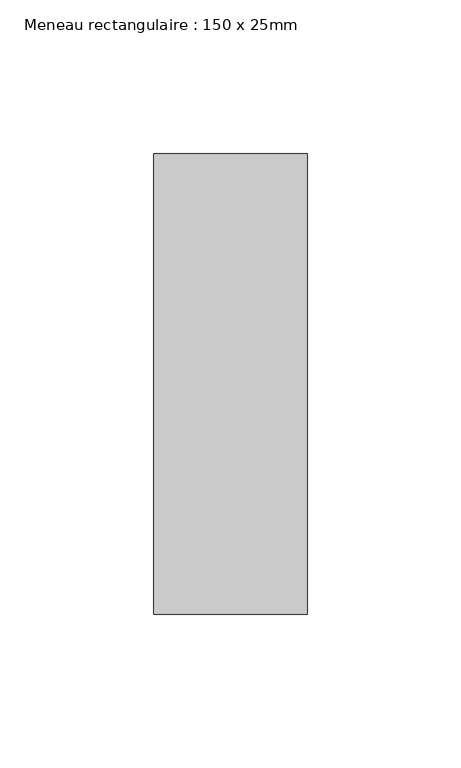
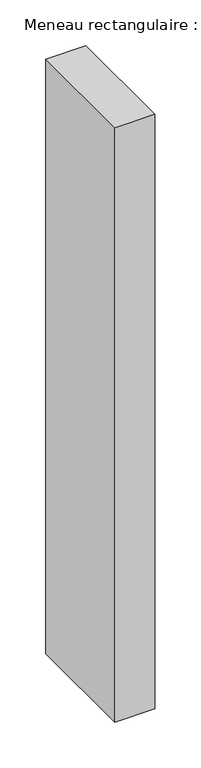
"""IFC4 building model written with IfcOpenShell, lengths in millimetres: member geometry, Meneau rectangulaire : 150 x 25mm."""

from ifc_helpers import new_model, si_unit, frame, origin, place, context, project, spatial, polyline, outline, extrude, source, transform, mapped, element, save


def meneau_rectangulaire_150_x_25mm_1440c18a(model_context):
    return source(origin(), model_context, "Body", "SweptSolid", [
        extrude(outline(polyline([(25.0, 75.0), (25.0, -75.0), (-25.0, -75.0), (-25.0, 75.0), (25.0, 75.0)])), frame((0.0, 0.0, -789.0913455), z_axis=(0.0, 0.0, 1.0), x_axis=(1.0, 0.0, 0.0)), (0.0, 0.0, 1.0), 789.0913455),
    ])


if __name__ == "__main__":
    model = new_model("IFC4")
    model_context = context("Model", 3, world=origin())
    ifc_project = project(units=[si_unit("LENGTHUNIT", "METRE", prefix="MILLI")], contexts=[model_context])
    site = spatial("IfcSite", under=ifc_project)
    building = spatial("IfcBuilding", under=site)
    placement = place(None, origin())
    meneau_rectangulaire_150_x_25mm_shape = meneau_rectangulaire_150_x_25mm_1440c18a(model_context)
    element("IfcMember", 1, ObjectType="Meneau rectangulaire : 150 x 25mm", at=placement, inside=building, context=model_context, shape_type="MappedRepresentation", body=[
        mapped(meneau_rectangulaire_150_x_25mm_shape, transform((0.0, 0.0, 0.0), x_axis=(1.0, 0.0, 0.0), y_axis=(0.0, 1.0, 0.0), z_axis=(0.0, 0.0, 1.0))),
    ])
    save(model, "model.ifc")
